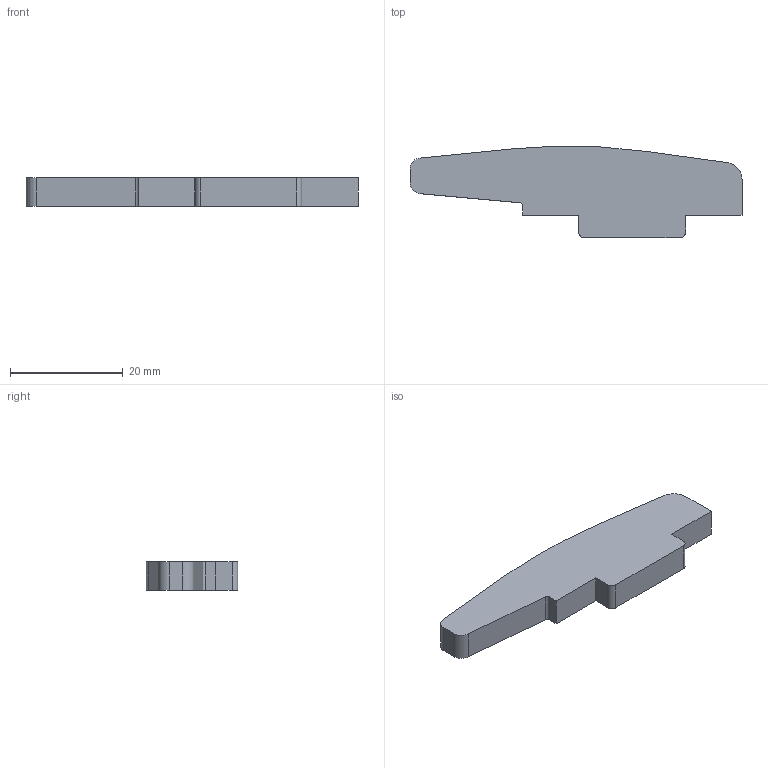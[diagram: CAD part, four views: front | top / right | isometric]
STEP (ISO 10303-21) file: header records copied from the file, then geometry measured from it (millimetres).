
FILE_DESCRIPTION((''),'2;1');
FILE_NAME('288083','2022-12-08T06:35:13',('vmorco'),(''),'CREO PARAMETRIC BY PTC INC, 2020454','CREO PARAMETRIC BY PTC INC, 2020454','');
FILE_SCHEMA(('AUTOMOTIVE_DESIGN { 1 0 10303 214 1 1 1 1 }'));
Length unit declared in the file: millimetre
Products named in the file (1): 288083
Bounding box: 59 x 16.29 x 5 mm (x, y, z)
Volume: 3346.5 mm3; surface area: 2039.9 mm2
Topology: 1 solids, 1 shells, 20 faces, 54 edges, 36 vertices
Faces by surface type: plane 13, cylinder 7
Entity records: 703 total; most frequent: CARTESIAN_POINT 112, DIRECTION 108, ORIENTED_EDGE 108, EDGE_CURVE 54, VECTOR 40, LINE 40, VERTEX_POINT 36, AXIS2_PLACEMENT_3D 34
